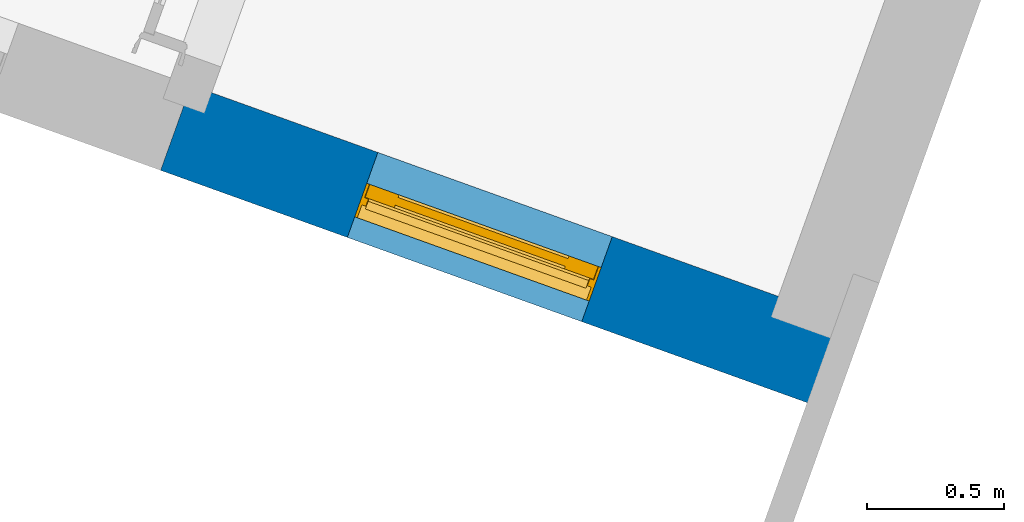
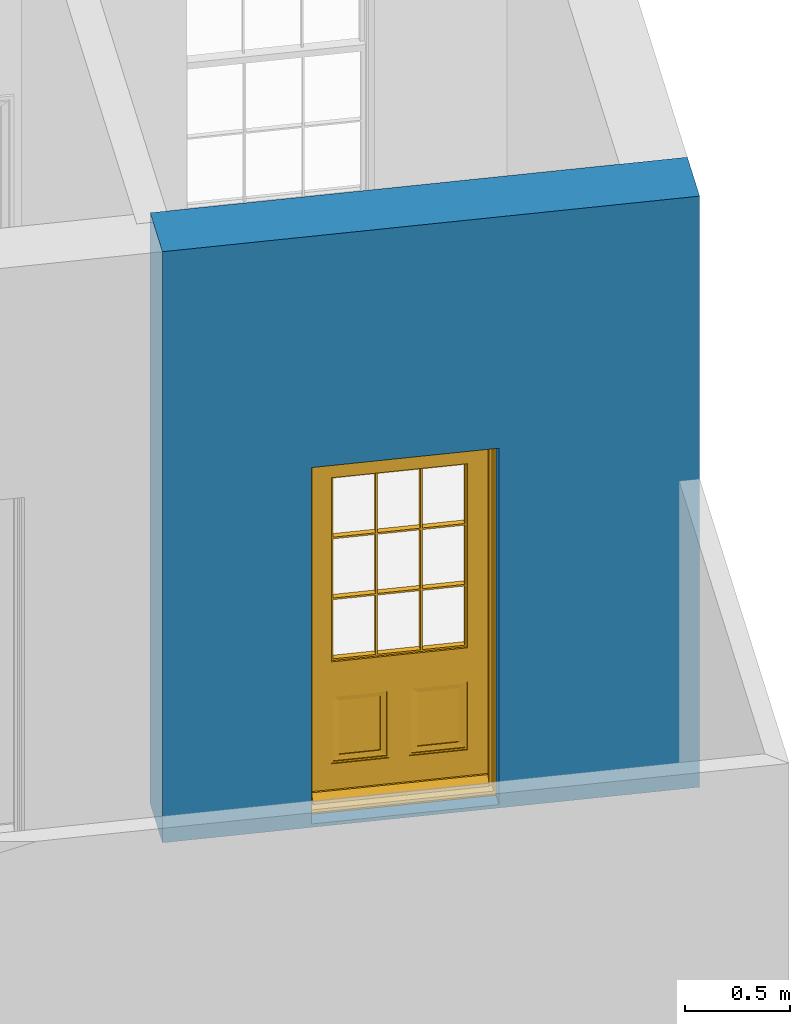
# One storey, part 3 of 8: 1 door, 1 wall, 1 opening.
"""IFC4 building model written with IfcOpenShell, lengths in metres."""

from ifc_helpers import new_model, si_unit, frame, origin, origin_with_axes, place, context, subcontext, project, spatial, polyline, outline, extrude, faceted_brep, source, transform, mapped, material, layer, layer_set, layer_usage, type_object, type_shapes, element, fill, save


model = new_model("IFC4")

# Units and contexts
model_context = context("Model", 3, world=origin_with_axes())
body_context = subcontext(model_context, "Body", "Model", "MODEL_VIEW")
ifc_project = project(units=[si_unit("PLANEANGLEUNIT", "RADIAN"), si_unit("MASSUNIT", "GRAM", prefix="KILO"), si_unit("FORCEUNIT", "NEWTON", prefix="KILO"), si_unit("LENGTHUNIT", "METRE"), si_unit("AREAUNIT", "SQUARE_METRE"), si_unit("VOLUMEUNIT", "CUBIC_METRE")], contexts=[model_context, model_context])

# Sites, building, storey
site_1_placement = place(None, origin_with_axes())
site_1 = spatial("IfcSite", under=ifc_project, at=site_1_placement, Name="Tamar")
site_2_placement = place(site_1_placement, origin_with_axes())
site_2 = spatial("IfcSite", under=site_1, at=site_2_placement, Name="Site plot-25", CompositionType="ELEMENT")
building_placement = place(None, origin_with_axes())
building = spatial("IfcBuilding", under=site_2, at=building_placement, Name="Building plot-25", CompositionType="ELEMENT")
storey_placement = place(None, frame((0.0, 0.0, 26.0), z_axis=(0.0, 0.0, 1.0), x_axis=(1.0, 0.0, 0.0)))
storey = spatial("IfcBuildingStorey", under=building, at=storey_placement, Name="plot-25 0", CompositionType="ELEMENT", Elevation=26.0)

# Wall, opening, door
ifc_material = material(Name="Masonry")
ifc_layer = layer(ifc_material, 0.33, ventilated=False)
ifc_layer_set = layer_set([ifc_layer], Name="exterior_0.08_0.25")
ifc_layer_usage = layer_usage(ifc_layer_set, "AXIS2", "POSITIVE", -0.25)
wall_type = type_object("IfcWallType", Name="exterior_0.08_0.25", PredefinedType="SOLIDWALL", material=ifc_layer_set)
wall_placement = place(storey_placement, frame((277.21220740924, 271.003786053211, 0.0), z_axis=(0.0, 0.0, 1.0), x_axis=(0.941087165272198, -0.338164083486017, 0.0)))
wall = element("IfcWall", 1, at=wall_placement, inside=storey, type_object=wall_type, material=ifc_layer_usage, Name="exterior", context=body_context, shape_type="SweptSolid", body=[
    extrude(outline(polyline([(6.71952744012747e-15, 0.0799999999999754), (1.63853765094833e-14, -0.249999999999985), (2.60977770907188, -0.249999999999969), (2.60977770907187, 0.079999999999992), (6.71952744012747e-15, 0.0799999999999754)])), origin_with_axes(), (0.0, 0.0, 1.0), 3.45),
])
opening_placement = place(wall_placement, frame((0.724888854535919, 0.0, 0.0199999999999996)))
opening = element("IfcOpeningElement", 2, at=opening_placement, cuts=wall, Name="My Opening", ObjectType="Opening", context=body_context, shape_type="SweptSolid", body=[
    extrude(outline(polyline([(0.0, -0.270000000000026), (0.910000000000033, -0.270000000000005), (0.910000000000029, 1.10000000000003), (-3.66373598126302e-15, 1.10000000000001), (0.0, -0.270000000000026)])), origin_with_axes(), (0.0, 0.0, 1.0), 2.08),
])
door_type = type_object("IfcDoorType", Name="door_panelled", OperationType="SINGLE_SWING_LEFT", PredefinedType="NOTDEFINED")
shared_shape = source(origin(), body_context, "Body", "Brep", [
    faceted_brep([(0.545, 0.195, 0.265), (0.745, 0.195, 0.265), (0.745, 0.2, 0.265), (0.545, 0.2, 0.265), (0.745, 0.2, 0.58), (0.545, 0.2, 0.58), (0.545, 0.195, 0.58), (0.515, 0.19, 0.235), (0.775, 0.19, 0.235), (0.745, 0.195, 0.58), (0.515, 0.19, 0.61), (0.515, 0.185, 0.235), (0.775, 0.185, 0.235), (0.775, 0.19, 0.61), (0.515, 0.185, 0.61), (0.785, 0.185, 0.225), (0.505, 0.185, 0.225), (0.775, 0.185, 0.61), (0.505, 0.185, 0.62), (0.785, 0.185, 0.62), (0.505, 0.18, 0.225), (0.785, 0.18, 0.225), (0.505, 0.18, 0.62), (0.785, 0.18, 0.62), (0.883, 0.18, 0.075), (0.898, 0.18, 0.075), (0.405, 0.18, 0.62), (0.405, 0.18, 0.225), (0.027, 0.18, 0.075), (0.785, 0.18, 0.82), (0.125, 0.18, 0.82), (0.405, 0.185, 0.62), (0.405, 0.185, 0.225), (0.898, 0.18, 2.068), (0.027, 0.17, 0.075), (0.883, 0.17, 0.075), (0.125, 0.18, 0.225), (0.012, 0.18, 0.075), (0.785, 0.19, 0.82), (0.125, 0.19, 0.82), (0.125, 0.18, 0.62), (0.125, 0.185, 0.62), (0.395, 0.185, 0.61), (0.395, 0.185, 0.235), (0.125, 0.185, 0.225), (0.785, 0.18, 1.895), (0.027, 0.14, 0.045), (0.883, 0.14, 0.045), (0.558333, 0.19, 0.83), (0.351667, 0.19, 0.83), (0.125, 0.18, 1.895), (0.125, 0.19, 1.895), (0.785, 0.19, 1.895), (0.012, 0.18, 2.068), (0.135, 0.185, 0.61), (0.395, 0.19, 0.61), (0.395, 0.19, 0.235), (0.135, 0.185, 0.235), (0.027, 0.14, 0.027), (0.883, 0.14, 0.027), (0.568333, 0.19, 0.83), (0.558333, 0.22, 0.83), (0.351667, 0.22, 0.83), (0.341667, 0.19, 0.83), (0.135, 0.19, 1.185), (0.135, 0.19, 1.53), (0.775, 0.19, 1.53), (0.775, 0.19, 1.185), (0.135, 0.19, 0.61), (0.365, 0.195, 0.58), (0.365, 0.195, 0.265), (0.135, 0.19, 0.235), (0.568333, 0.19, 1.175), (0.558333, 0.19, 1.175), (0.775, 0.19, 0.83), (0.558333, 0.22, 1.175), (0.785, 0.22, 0.82), (0.125, 0.22, 0.82), (0.351667, 0.22, 1.175), (0.351667, 0.19, 1.175), (0.341667, 0.19, 1.175), (0.135, 0.19, 0.83), (0.135, 0.19, 1.175), (0.135, 0.22, 1.185), (0.135, 0.22, 1.53), (0.135, 0.19, 1.54), (0.351667, 0.19, 1.885), (0.558333, 0.19, 1.885), (0.775, 0.22, 1.53), (0.775, 0.22, 1.185), (0.775, 0.19, 1.175), (0.775, 0.19, 1.54), (0.165, 0.195, 0.58), (0.365, 0.2, 0.58), (0.365, 0.2, 0.265), (0.165, 0.195, 0.265), (0.568333, 0.22, 0.83), (0.568333, 0.22, 1.175), (0.568333, 0.19, 1.185), (0.558333, 0.19, 1.185), (0.775, 0.22, 0.83), (0.785, 0.23, 0.82), (0.125, 0.23, 0.82), (0.341667, 0.22, 0.83), (0.341667, 0.22, 1.175), (0.351667, 0.19, 1.185), (0.341667, 0.19, 1.185), (0.135, 0.22, 0.83), (0.341667, 0.22, 1.185), (0.125, 0.22, 1.895), (0.341667, 0.22, 1.53), (0.341667, 0.19, 1.53), (0.135, 0.19, 1.885), (0.341667, 0.19, 1.54), (0.341667, 0.19, 1.885), (0.558333, 0.22, 1.885), (0.351667, 0.22, 1.885), (0.568333, 0.19, 1.885), (0.785, 0.22, 1.895), (0.568333, 0.22, 1.185), (0.568333, 0.19, 1.53), (0.568333, 0.22, 1.53), (0.568333, 0.19, 1.54), (0.775, 0.19, 1.885), (0.165, 0.2, 0.58), (0.165, 0.2, 0.265), (0.775, 0.22, 1.175), (0.558333, 0.19, 1.53), (0.351667, 0.22, 1.185), (0.558333, 0.22, 1.185), (0.505, 0.23, 0.62), (0.405, 0.23, 0.62), (0.125, 0.23, 1.895), (0.785, 0.23, 1.895), (0.351667, 0.19, 1.53), (0.135, 0.22, 1.175), (0.135, 0.22, 1.54), (0.341667, 0.22, 1.54), (0.135, 0.22, 1.885), (0.351667, 0.19, 1.54), (0.558333, 0.22, 1.54), (0.558333, 0.19, 1.54), (0.351667, 0.22, 1.54), (0.775, 0.22, 1.54), (0.568333, 0.22, 1.54), (0.775, 0.22, 1.885), (0.558333, 0.22, 1.53), (0.405, 0.23, 0.225), (0.505, 0.23, 0.225), (0.125, 0.23, 0.62), (0.785, 0.23, 0.62), (0.012, 0.23, 2.068), (0.898, 0.23, 2.068), (0.351667, 0.22, 1.53), (0.341667, 0.22, 1.885), (0.568333, 0.22, 1.885), (0.405, 0.225, 0.225), (0.405, 0.225, 0.62), (0.505, 0.225, 0.62), (0.505, 0.225, 0.225), (0.898, 0.23, 0.027), (0.012, 0.23, 0.027), (0.125, 0.225, 0.62), (0.785, 0.225, 0.62), (0.395, 0.225, 0.235), (0.395, 0.225, 0.61), (0.125, 0.23, 0.225), (0.125, 0.225, 0.225), (0.515, 0.225, 0.61), (0.515, 0.225, 0.235), (0.785, 0.23, 0.225), (0.785, 0.225, 0.225), (0.135, 0.225, 0.61), (0.775, 0.225, 0.61), (0.135, 0.225, 0.235), (0.395, 0.22, 0.235), (0.395, 0.22, 0.61), (0.515, 0.22, 0.61), (0.515, 0.22, 0.235), (0.775, 0.225, 0.235), (0.135, 0.22, 0.61), (0.775, 0.22, 0.61), (0.135, 0.22, 0.235), (0.365, 0.215, 0.265), (0.365, 0.215, 0.58), (0.545, 0.215, 0.58), (0.545, 0.215, 0.265), (0.775, 0.22, 0.235), (0.165, 0.215, 0.58), (0.745, 0.215, 0.58), (0.165, 0.215, 0.265), (0.365, 0.21, 0.58), (0.365, 0.21, 0.265), (0.545, 0.21, 0.58), (0.545, 0.21, 0.265), (0.745, 0.215, 0.265), (0.165, 0.21, 0.58), (0.745, 0.21, 0.58), (0.165, 0.21, 0.265), (0.745, 0.21, 0.265), (0.885, 0.178, 0.025), (0.025, 0.178, 0.025), (0.025, 0.15, 0.025), (0.885, 0.15, 0.025), (0.9, 0.23, 0.025), (0.01, 0.23, 0.025), (0.9, 0.178, 0.025), (0.91, 0.23, 0.0), (0.0, 0.23, 0.0), (0.01, 0.178, 0.025), (0.9, 0.178, 2.07), (0.9, 0.23, 2.07), (0.885, 0.178, 2.055), (0.91, 0.23, 2.08), (0.01, 0.23, 2.07), (0.0, 0.23, 2.08), (0.01, 0.178, 2.07), (0.025, 0.178, 2.055), (0.0, 0.1, 2.08), (0.91, 0.1, 2.08), (0.01, 0.1, 2.07), (0.9, 0.1, 2.07), (0.01, 0.15, 2.07), (0.9, 0.15, 2.07), (0.0, 0.1, 0.0), (0.91, 0.1, 0.0), (0.01, 0.1, 0.025), (0.9, 0.1, 0.025), (0.01, 0.15, 0.025), (0.025, 0.15, 2.055), (0.9, 0.15, 0.025), (0.885, 0.15, 2.055), (0.898, 0.18, 0.027), (0.012, 0.18, 0.027), (0.883, 0.18, 0.027), (0.027, 0.18, 0.027)], [[[0, 1, 2, 3]], [[2, 4, 5, 3]], [[0, 3, 5, 6]], [[1, 0, 7, 8]], [[9, 4, 2, 1]], [[9, 6, 5, 4]], [[0, 6, 10, 7]], [[8, 7, 11, 12]], [[8, 13, 9, 1]], [[13, 10, 6, 9]], [[7, 10, 14, 11]], [[15, 12, 11, 16]], [[12, 17, 13, 8]], [[17, 14, 10, 13]], [[18, 16, 11, 14]], [[15, 19, 17, 12]], [[15, 16, 20, 21]], [[14, 17, 19, 18]], [[16, 18, 22, 20]], [[21, 23, 19, 15]], [[24, 25, 21, 20]], [[23, 22, 18, 19]], [[20, 22, 26, 27]], [[23, 21, 25]], [[28, 24, 20, 27]], [[22, 23, 29]], [[29, 30, 26, 22]], [[27, 26, 31, 32]], [[23, 25, 33, 29]], [[34, 35, 24, 28]], [[28, 27, 36, 37]], [[38, 39, 30, 29]], [[26, 30, 40]], [[26, 40, 41, 31]], [[42, 43, 32, 31]], [[32, 44, 36, 27]], [[33, 45, 29]], [[46, 47, 35, 34]], [[36, 40, 37]], [[39, 38, 48, 49]], [[50, 30, 39, 51]], [[29, 45, 52, 38]], [[53, 37, 40, 30]], [[44, 41, 40, 36]], [[31, 41, 54, 42]], [[43, 42, 55, 56]], [[57, 44, 32, 43]], [[50, 45, 33, 53]], [[47, 46, 58, 59]], [[60, 48, 38]], [[49, 48, 61, 62]], [[49, 63, 39]], [[50, 53, 30]], [[51, 39, 64, 65]], [[45, 50, 51, 52]], [[66, 67, 38, 52]], [[57, 54, 41, 44]], [[42, 54, 68, 55]], [[56, 55, 69, 70]], [[56, 71, 57, 43]], [[60, 72, 73, 48]], [[60, 38, 74]], [[48, 73, 75, 61]], [[76, 77, 62, 61]], [[62, 78, 79, 49]], [[49, 79, 80, 63]], [[63, 81, 39]], [[82, 64, 39]], [[65, 64, 83, 84]], [[85, 51, 65]], [[52, 51, 86, 87]], [[88, 89, 67, 66]], [[90, 38, 67]], [[91, 66, 52]], [[71, 68, 54, 57]], [[55, 68, 92, 69]], [[69, 93, 94, 70]], [[70, 95, 71, 56]], [[96, 97, 72, 60]], [[73, 72, 98, 99]], [[74, 38, 90]], [[100, 96, 60, 74]], [[75, 73, 79, 78]], [[61, 75, 97, 96]], [[101, 102, 77, 76]], [[77, 103, 62]], [[96, 76, 61]], [[103, 104, 78, 62]], [[80, 79, 105, 106]], [[63, 80, 104, 103]], [[81, 63, 103, 107]], [[81, 82, 39]], [[106, 64, 82, 80]], [[106, 108, 83, 64]], [[84, 83, 77, 109]], [[110, 111, 65, 84]], [[112, 51, 85]], [[113, 85, 65, 111]], [[114, 86, 51]], [[115, 87, 86, 116]], [[117, 52, 87]], [[118, 76, 89, 88]], [[119, 98, 67, 89]], [[120, 121, 88, 66]], [[67, 98, 72, 90]], [[91, 122, 120, 66]], [[91, 52, 123]], [[95, 92, 68, 71]], [[69, 92, 124, 93]], [[94, 93, 124, 125]], [[94, 125, 95, 70]], [[72, 97, 126, 90]], [[127, 99, 98, 120]], [[99, 105, 79, 73]], [[74, 90, 126, 100]], [[96, 100, 76]], [[128, 129, 75, 78]], [[97, 75, 129, 119]], [[130, 131, 102, 101]], [[109, 77, 102, 132]], [[133, 101, 76, 118]], [[77, 107, 103]], [[78, 104, 108, 128]], [[111, 106, 105, 134]], [[104, 80, 82, 135]], [[107, 135, 82, 81]], [[110, 108, 106, 111]], [[104, 135, 83, 108]], [[83, 135, 77]], [[136, 84, 109]], [[110, 84, 136, 137]], [[114, 51, 112]], [[85, 136, 138, 112]], [[113, 137, 136, 85]], [[111, 134, 139, 113]], [[86, 114, 113, 139]], [[140, 141, 87, 115]], [[139, 142, 116, 86]], [[109, 118, 115, 116]], [[117, 123, 52]], [[117, 87, 141, 122]], [[126, 89, 76]], [[143, 118, 88]], [[120, 98, 119, 121]], [[119, 89, 126, 97]], [[144, 143, 88, 121]], [[144, 122, 91, 143]], [[127, 120, 122, 141]], [[143, 91, 123, 145]], [[124, 92, 95, 125]], [[146, 129, 99, 127]], [[99, 129, 128, 105]], [[100, 126, 76]], [[121, 119, 129, 146]], [[147, 131, 130, 148]], [[131, 149, 102]], [[130, 101, 150]], [[102, 151, 132]], [[118, 109, 132, 133]], [[101, 133, 152]], [[107, 77, 135]], [[153, 128, 108, 110]], [[134, 105, 128, 153]], [[109, 138, 136]], [[153, 110, 137, 142]], [[154, 114, 112, 138]], [[137, 113, 114, 154]], [[141, 139, 134, 127]], [[141, 140, 142, 139]], [[144, 140, 115, 155]], [[142, 137, 154, 116]], [[155, 115, 118]], [[116, 154, 109]], [[117, 155, 145, 123]], [[122, 144, 155, 117]], [[143, 145, 118]], [[121, 146, 140, 144]], [[146, 127, 134, 153]], [[156, 157, 131, 147]], [[148, 130, 158, 159]], [[148, 160, 161, 147]], [[157, 162, 149, 131]], [[161, 151, 102, 149]], [[101, 152, 160, 150]], [[163, 158, 130, 150]], [[151, 152, 133, 132]], [[154, 138, 109]], [[142, 140, 146, 153]], [[145, 155, 118]], [[157, 156, 164, 165]], [[147, 166, 167, 156]], [[168, 169, 159, 158]], [[170, 148, 159, 171]], [[148, 170, 160]], [[166, 147, 161]], [[172, 162, 157, 165]], [[166, 149, 162, 167]], [[166, 161, 149]], [[150, 160, 170]], [[163, 173, 168, 158]], [[171, 163, 150, 170]], [[174, 164, 156, 167]], [[175, 176, 165, 164]], [[169, 168, 177, 178]], [[171, 159, 169, 179]], [[167, 162, 172, 174]], [[176, 180, 172, 165]], [[179, 173, 163, 171]], [[181, 177, 168, 173]], [[164, 174, 182, 175]], [[183, 184, 176, 175]], [[178, 177, 185, 186]], [[179, 169, 178, 187]], [[174, 172, 180, 182]], [[184, 188, 180, 176]], [[187, 181, 173, 179]], [[189, 185, 177, 181]], [[175, 182, 190, 183]], [[191, 184, 183, 192]], [[185, 193, 194, 186]], [[187, 178, 186, 195]], [[182, 180, 188, 190]], [[191, 196, 188, 184]], [[195, 189, 181, 187]], [[197, 193, 185, 189]], [[183, 190, 198, 192]], [[198, 196, 191, 192]], [[194, 193, 197, 199]], [[195, 186, 194, 199]], [[188, 196, 198, 190]], [[197, 189, 195, 199]], [[200, 201, 202, 203]], [[201, 200, 204, 205]], [[206, 204, 200]], [[204, 207, 208, 205]], [[209, 201, 205]], [[210, 211, 204, 206]], [[206, 200, 212, 210]], [[211, 213, 207, 204]], [[214, 205, 208, 215]], [[216, 217, 201, 209]], [[205, 214, 216, 209]], [[216, 214, 211, 210]], [[210, 212, 217, 216]], [[214, 215, 213, 211]], [[218, 219, 213, 215]], [[219, 218, 220, 221]], [[221, 220, 222, 223]], [[215, 208, 224, 218]], [[225, 224, 208, 207]], [[224, 226, 220, 218]], [[224, 225, 227, 226]], [[219, 225, 207, 213]], [[228, 222, 220, 226]], [[219, 221, 227, 225]], [[226, 227, 203, 202]], [[202, 229, 222, 228]], [[228, 226, 202]], [[227, 221, 223, 230]], [[230, 203, 227]], [[217, 229, 202, 201]], [[231, 223, 222, 229]], [[230, 223, 231, 203]], [[231, 229, 217, 212]], [[212, 200, 203, 231]], [[33, 152, 151, 53]], [[25, 160, 152, 33]], [[161, 37, 53, 151]], [[232, 160, 25]], [[161, 233, 37]], [[160, 232, 234]], [[24, 234, 232, 25]], [[233, 161, 235]], [[37, 233, 235, 28]], [[161, 160, 234, 235]], [[35, 47, 234, 24]], [[28, 235, 46, 34]], [[58, 235, 234, 59]], [[59, 234, 47]], [[58, 46, 235]]]),
])
type_shapes(door_type, [shared_shape])
door_placement = place(storey_placement, frame((277.803086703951, 270.504561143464, 0.0199999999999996), z_axis=(0.0, 0.0, 1.0), x_axis=(0.856389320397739, -0.307729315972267, 0.0)))
door = element("IfcDoor", 3, at=door_placement, inside=storey, type_object=door_type, Name="kitchen outside door", OverallHeight=2.08, OverallWidth=0.91, context=body_context, shape_type="MappedRepresentation", body=[
    mapped(shared_shape, transform((0.0, 0.0, 0.0), scale=1.0)),
])
fill(opening, door)

save(model, "model.ifc")
